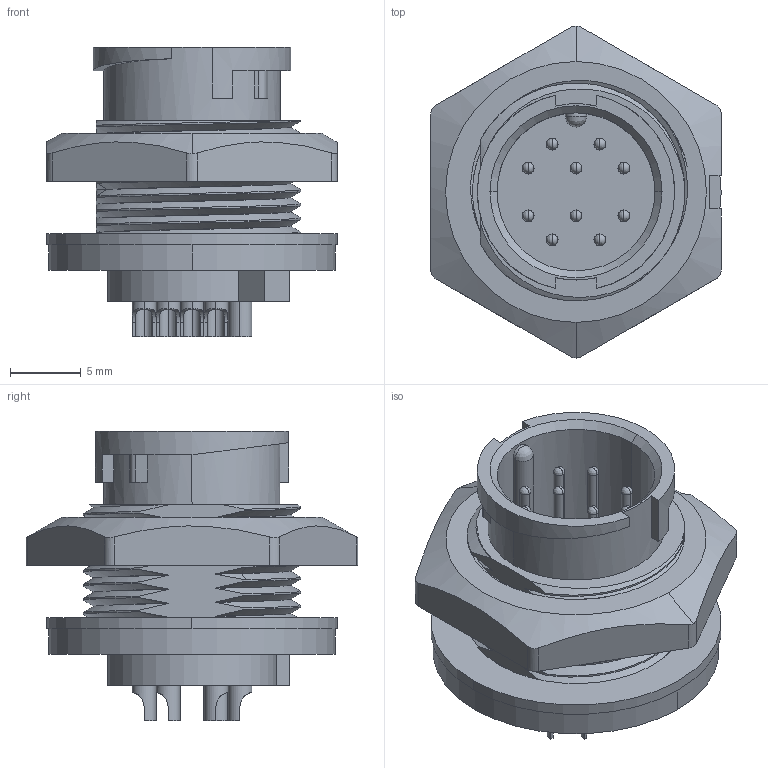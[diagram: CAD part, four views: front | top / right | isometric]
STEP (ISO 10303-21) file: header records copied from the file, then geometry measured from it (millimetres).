
FILE_DESCRIPTION (( 'STEP AP203' ), '1' );
FILE_NAME ('869-010-103R001.STEP', '2024-06-14T18:32:40', ( '' ), ( '' ), 'SwSTEP 2.0', 'SolidWorks 2020', '' );
FILE_SCHEMA (( 'CONFIG_CONTROL_DESIGN' ));
Length unit declared in the file: millimetre
Products named in the file (1): 869-010-103R001
Bounding box: 20.6 x 23.54 x 20.5 mm (x, y, z)
Volume: 2668.3 mm3; surface area: 3925.8 mm2
Topology: 2 solids, 2 shells, 401 faces, 1026 edges, 603 vertices
Faces by surface type: cylinder 169, cone 85, plane 83, bspline 64
Entity records: 18504 total; most frequent: CARTESIAN_POINT 9539, ORIENTED_EDGE 1928, DIRECTION 1725, EDGE_CURVE 964, AXIS2_PLACEMENT_3D 686, VERTEX_POINT 603, EDGE_LOOP 439, FACE_OUTER_BOUND 401
